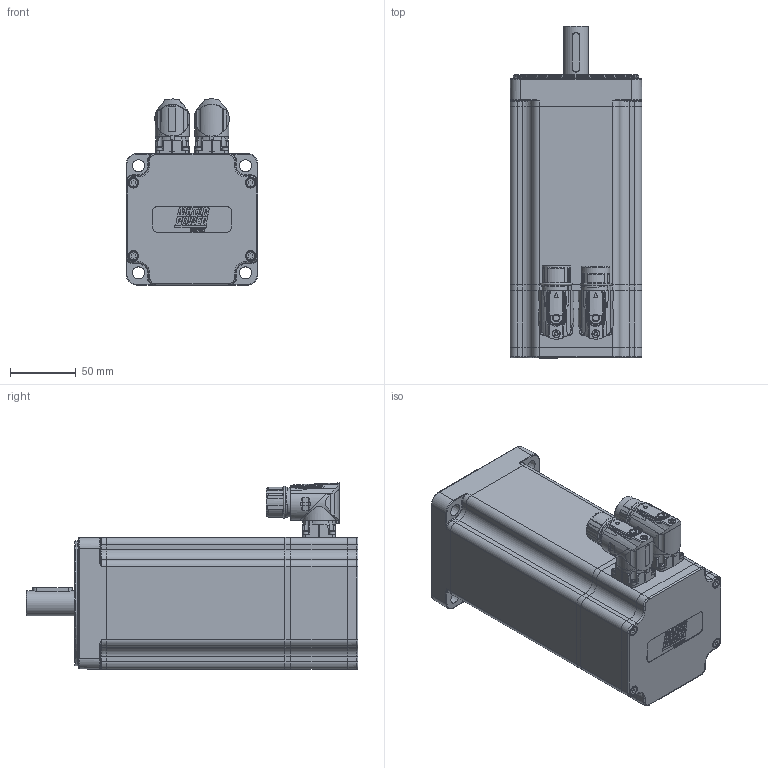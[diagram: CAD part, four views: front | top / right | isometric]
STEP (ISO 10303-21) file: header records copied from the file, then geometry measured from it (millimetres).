
FILE_DESCRIPTION(/* description */ ('Unknown'),/* implementation_level */ '2;1');
FILE_NAME(/* name */ 'TC4-100.4B.XX.X.3.M1.0.1.G2.31.80 Q0BQ10',/* time_stamp */ '2026-03-04T14:59:11+01:00',/* author */ ('Unknown'),/* organization */ ('Unknown'),/* preprocessor_version */ 'ST-DEVELOPER v19.4',/* originating_system */ 'Solid Edge',/* authorisation */ 'Unknown');
FILE_SCHEMA (('AUTOMOTIVE_DESIGN {1 0 10303 214 3 1 1}'));
Products named in the file (14): Q0BQ10 TC4-100 4B M1 VUOTO; 005911000180; 005911000185; 003103040221; 005113000500; 003107003287; 003151003169; 005119000312; 003155002223; 007117000456; 007117000454; 005911000208; 003003200462; 003251040721
Assembly tree (26 placements, depth 2):
  Q0BQ10 TC4-100 4B M1 VUOTO
    005911000180  x4
    005911000185  x8
    003103040221
    005113000500
    003107003287
    003151003169
    005119000312
    003155002223
    007117000456
    007117000454
    005911000208  x4
    003003200462
    003251040721
Bounding box: 100 x 252 x 141.5 mm (x, y, z)
Volume: 754567.9 mm3; surface area: 286209.3 mm2
Topology: 28 solids, 28 shells, 2242 faces, 5620 edges, 3591 vertices
Faces by surface type: plane 974, cylinder 537, cone 278, bspline 271, torus 109, sphere 73
Full cylindrical faces by diameter (mm): 0.5 x1, 1 x21, 1.2 x17, 1.4 x4, 2 x4, 2.013 x12, 2.459 x2, 2.5 x8, 2.8 x4, 3 x12, 3.2 x1, 3.242 x32, 3.3 x1, 4 x9, 4.5 x22, 4.7 x8, 4.917 x1, 5.5 x2, 5.8 x1, 5.9 x2, 6 x1, 6.4 x1, 6.8 x1, 7 x8, 8 x4, 8.004 x4, 10 x1, 15.2 x1, 16.99 x1, 17 x1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
Entity records: 79997 total; most frequent: CARTESIAN_POINT 21155, ORIENTED_EDGE 9284, DIRECTION 8771, EDGE_CURVE 4642, AXIS2_PLACEMENT_3D 3378, VERTEX_POINT 3206, FACE_BOUND 2718, EDGE_LOOP 2693
